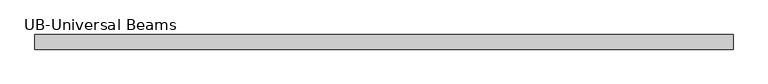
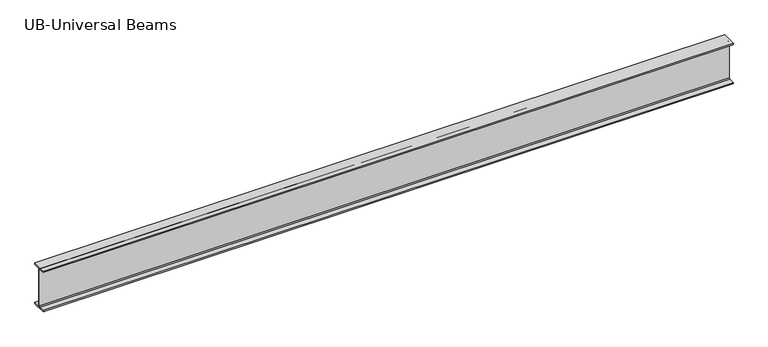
"""IFC4 building model written with IfcOpenShell, lengths in millimetres: beam geometry."""

from ifc_helpers import new_model, si_unit, point, frame, frame_2d, origin, place, context, project, spatial, polyline, circle_curve, trimmed, segment, composite_curve, outline, extrude, source, transform, mapped, element, save


def ub_universal_beams_a9511354(model_context):
    return source(origin(), model_context, "Body", "SweptSolid", [
        extrude(outline(composite_curve([segment(polyline([(76.9, -214.0), (76.9, -229.0), (-76.9, -229.0), (-76.9, -214.0), (-14.7, -214.0)]), True, "CONTINUOUS"), segment(trimmed(circle_curve(frame_2d((-14.7, -203.8)), 10.2), [point((-14.7, -214.0))], [point((-4.5, -203.8))], True, "CARTESIAN"), True, "CONTINUOUS"), segment(polyline([(-4.5, -203.8), (-4.5, 203.8)]), True, "CONTINUOUS"), segment(trimmed(circle_curve(frame_2d((-14.7, 203.8)), 10.2), [point((-4.5, 203.8))], [point((-14.7, 214.0))], True, "CARTESIAN"), True, "CONTINUOUS"), segment(polyline([(-14.7, 214.0), (-76.9, 214.0), (-76.9, 229.0), (76.9, 229.0), (76.9, 214.0), (14.7, 214.0)]), True, "CONTINUOUS"), segment(trimmed(circle_curve(frame_2d((14.7, 203.8)), 10.2), [point((14.7, 214.0))], [point((4.5, 203.8))], True, "CARTESIAN"), True, "CONTINUOUS"), segment(polyline([(4.5, 203.8), (4.5, -203.8)]), True, "CONTINUOUS"), segment(trimmed(circle_curve(frame_2d((14.7, -203.8)), 10.2), [point((4.5, -203.8))], [point((14.7, -214.0))], True, "CARTESIAN"), True, "CONTINUOUS"), segment(polyline([(14.7, -214.0), (76.9, -214.0)]), True, "CONTINUOUS")], self_intersect=False)), frame((-3671.6, 0.0, 0.0), z_axis=(1.0, 0.0, 0.0), x_axis=(0.0, 1.0, 0.0)), (0.0, 0.0, 1.0), 7346.4),
    ])


if __name__ == "__main__":
    model = new_model("IFC4")
    model_context = context("Model", 3, world=origin())
    ifc_project = project(units=[si_unit("LENGTHUNIT", "METRE", prefix="MILLI")], contexts=[model_context])
    site = spatial("IfcSite", under=ifc_project)
    building = spatial("IfcBuilding", under=site)
    placement = place(None, origin())
    ub_universal_beams_shape = ub_universal_beams_a9511354(model_context)
    element("IfcBeam", 1, ObjectType="UB-Universal Beams : UB 18\" x 6\" x 2 1/2\"", at=placement, inside=building, context=model_context, shape_type="MappedRepresentation", body=[
        mapped(ub_universal_beams_shape, transform((0.0, 0.0, 0.0), x_axis=(1.0, 0.0, 0.0), y_axis=(0.0, 1.0, 0.0), z_axis=(0.0, 0.0, 1.0))),
    ])
    save(model, "model.ifc")
